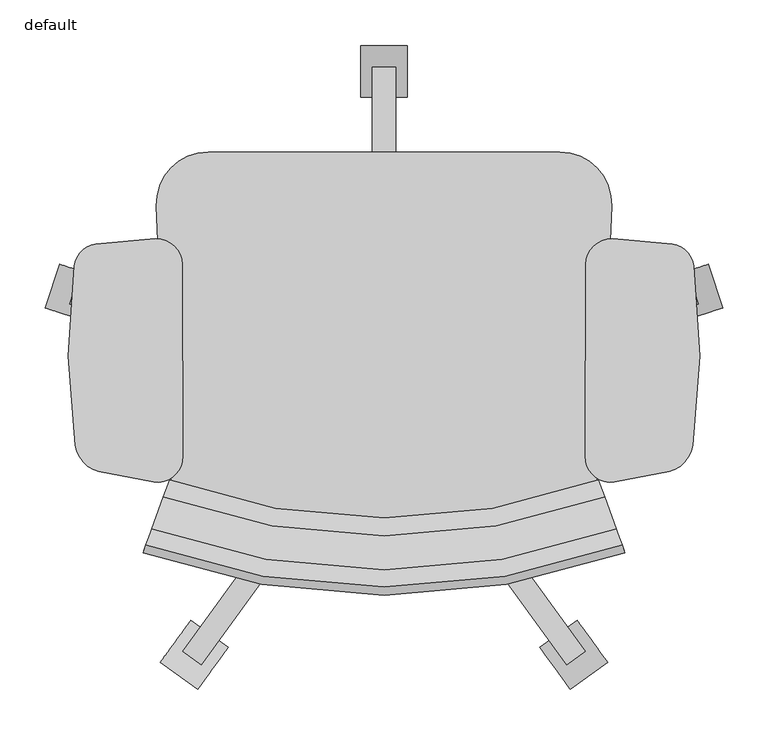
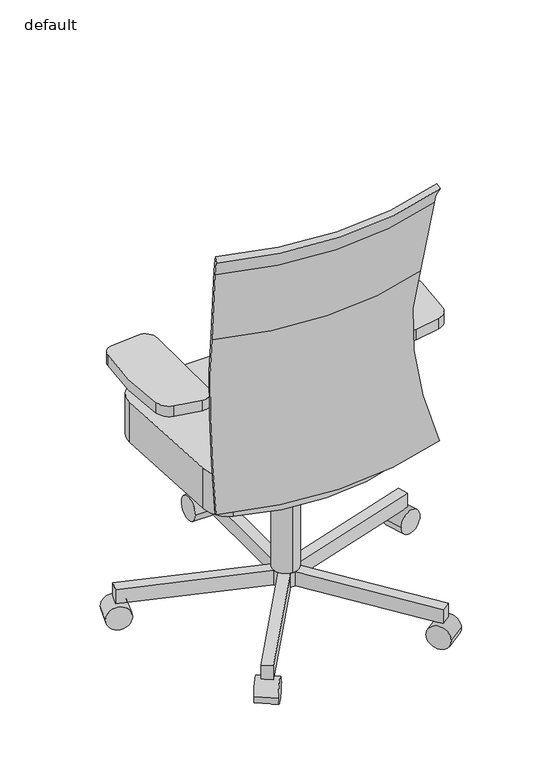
"""IFC4 building model written with IfcOpenShell, lengths in millimetres: furniture geometry, Fu_кресло офисное_LEG : default."""

from ifc_helpers import new_model, si_unit, point, frame, frame_2d, origin, place, context, project, spatial, polyline, circle_curve, ellipse_curve, trimmed, segment, composite_curve, outline, extrude, source, transform, mapped, element, save
from ifc_brep_helpers import plane_surface, revolved_surface, advanced_brep


def default_57711184(model_context):
    return source(origin(), model_context, "Body", "SolidModel", [
        extrude(outline(composite_curve([segment(trimmed(circle_curve(frame_2d((0.0, 28.575)), 28.575), [point((28.5750001, 28.575))], [point((-28.5749999, 28.575))], False, "CARTESIAN"), True, "CONTINUOUS"), segment(trimmed(circle_curve(frame_2d((0.0, 28.575)), 28.575), [point((-28.5749999, 28.575))], [point((28.5750001, 28.575))], False, "CARTESIAN"), True, "CONTINUOUS")], self_intersect=False)), frame((-231.7447289, -88.7968238, 57.15), z_axis=(0.3090169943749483, 0.9510565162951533, 0.0), x_axis=(0.9510565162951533, -0.3090169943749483, 0.0)), (0.0, 0.0, 1.0), 50.8),
        extrude(outline(composite_curve([segment(trimmed(circle_curve(frame_2d((0.0, 28.575)), 28.575), [point((28.575, 28.575))], [point((-28.575, 28.575))], False, "CARTESIAN"), True, "CONTINUOUS"), segment(trimmed(circle_curve(frame_2d((0.0, 28.575)), 28.575), [point((-28.575, 28.575))], [point((28.575, 28.575))], False, "CARTESIAN"), True, "CONTINUOUS")], self_intersect=False)), frame((-74.1674041, -477.1426201, 57.15), z_axis=(-0.8090169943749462, 0.5877852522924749, 0.0), x_axis=(0.5877852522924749, 0.8090169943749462, 0.0)), (0.0, 0.0, 1.0), 50.8),
        extrude(outline(composite_curve([segment(trimmed(circle_curve(frame_2d((0.0, 28.575)), 28.575), [point((-28.575, 28.575))], [point((28.575, 28.575))], False, "CARTESIAN"), True, "CONTINUOUS"), segment(trimmed(circle_curve(frame_2d((0.0, 28.575)), 28.575), [point((28.575, 28.575))], [point((-28.575, 28.575))], False, "CARTESIAN"), True, "CONTINUOUS")], self_intersect=False)), frame((302.7674041, -477.1426201, 57.15), z_axis=(0.8090169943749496, 0.5877852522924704, 0.0), x_axis=(0.5877852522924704, -0.8090169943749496, 0.0)), (0.0, 0.0, 1.0), 50.8),
        extrude(outline(composite_curve([segment(trimmed(circle_curve(frame_2d((0.0, 28.575)), 28.575), [point((-28.5750001, 28.575))], [point((28.5749999, 28.575))], False, "CARTESIAN"), True, "CONTINUOUS"), segment(trimmed(circle_curve(frame_2d((0.0, 28.575)), 28.575), [point((28.5749999, 28.575))], [point((-28.5750001, 28.575))], False, "CARTESIAN"), True, "CONTINUOUS")], self_intersect=False)), frame((460.3447289, -88.7968238, 57.15), z_axis=(-0.30901699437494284, 0.9510565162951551, 0.0), x_axis=(0.9510565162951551, 0.30901699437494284, 0.0)), (0.0, 0.0, 1.0), 50.8),
        extrude(outline(composite_curve([segment(trimmed(circle_curve(frame_2d((181.0735685, 28.575)), 28.575), [point((152.4985685, 28.575))], [point((209.6485685, 28.575))], False, "CARTESIAN"), True, "CONTINUOUS"), segment(trimmed(circle_curve(frame_2d((181.0735685, 28.575)), 28.575), [point((209.6485685, 28.575))], [point((152.4985685, 28.575))], False, "CARTESIAN"), True, "CONTINUOUS")], self_intersect=False)), frame((88.9, 0.0, 0.0), z_axis=(1.0, 0.0, 0.0), x_axis=(0.0, 1.0, 0.0)), (0.0, 0.0, 1.0), 50.8),
        extrude(outline(composite_curve([segment(trimmed(circle_curve(frame_2d((-135.8616483, -243.6441658)), 28.575), [point((-107.2868789, -243.7589737))], [point((-139.3311074, -272.0077601))], False, "CARTESIAN"), True, "CONTINUOUS"), segment(trimmed(circle_curve(frame_2d((-83.8527439, 181.5401137)), 456.9283561), [point((-139.3311074, -272.0077601))], [point((-200.073987, -260.360492))], False, "CARTESIAN"), True, "CONTINUOUS"), segment(trimmed(circle_curve(frame_2d((-191.1906974, -226.5841276)), 34.925), [point((-200.073987, -260.360492))], [point((-225.720055, -231.8261773))], False, "CARTESIAN"), True, "CONTINUOUS"), segment(trimmed(circle_curve(frame_2d((461.3738842, -127.5155027)), 694.9667604), [point((-225.720055, -231.8261773))], [point((-227.2377763, -33.7456825))], False, "CARTESIAN"), True, "CONTINUOUS"), segment(trimmed(circle_curve(frame_2d((-198.9240794, -37.6012232)), 28.575), [point((-227.2377763, -33.7456825))], [point((-203.2448485, -9.3547795))], False, "CARTESIAN"), True, "CONTINUOUS"), segment(trimmed(circle_curve(frame_2d((-125.9404962, -514.7215236)), 511.2450576), [point((-203.2448485, -9.3547795))], [point((-137.3924488, -3.6047447))], False, "CARTESIAN"), True, "CONTINUOUS"), segment(trimmed(circle_curve(frame_2d((-136.7523652, -32.1725748)), 28.575), [point((-137.3924488, -3.6047447))], [point((-108.1795769, -31.8170618))], False, "CARTESIAN"), True, "CONTINUOUS"), segment(trimmed(circle_curve(frame_2d((-12984.0081879, -192.0228026)), 12876.8252415), [point((-108.1795769, -31.8170618))], [point((-107.2868789, -243.7589737))], False, "CARTESIAN"), True, "CONTINUOUS")], self_intersect=False)), frame((0.0, 0.0, 627.9602843), z_axis=(0.0, 0.0, 1.0), x_axis=(1.0, 0.0, 0.0)), (0.0, 0.0, 1.0), 26.0897157),
        extrude(outline(composite_curve([segment(trimmed(circle_curve(frame_2d((365.3523652, -32.1725748)), 28.575), [point((336.7795769, -31.8170618))], [point((365.9924488, -3.6047447))], False, "CARTESIAN"), True, "CONTINUOUS"), segment(trimmed(circle_curve(frame_2d((354.5404962, -514.7215236)), 511.2450576), [point((365.9924488, -3.6047447))], [point((431.8448485, -9.3547795))], False, "CARTESIAN"), True, "CONTINUOUS"), segment(trimmed(circle_curve(frame_2d((427.5240794, -37.6012232)), 28.575), [point((431.8448485, -9.3547795))], [point((455.8377763, -33.7456825))], False, "CARTESIAN"), True, "CONTINUOUS"), segment(trimmed(circle_curve(frame_2d((-232.7738842, -127.5155027)), 694.9667604), [point((455.8377763, -33.7456825))], [point((454.320055, -231.8261773))], False, "CARTESIAN"), True, "CONTINUOUS"), segment(trimmed(circle_curve(frame_2d((419.7906974, -226.5841276)), 34.925), [point((454.320055, -231.8261773))], [point((428.673987, -260.360492))], False, "CARTESIAN"), True, "CONTINUOUS"), segment(trimmed(circle_curve(frame_2d((312.4527439, 181.5401137)), 456.9283561), [point((428.673987, -260.360492))], [point((367.9311074, -272.0077601))], False, "CARTESIAN"), True, "CONTINUOUS"), segment(trimmed(circle_curve(frame_2d((364.4616483, -243.6441658)), 28.575), [point((367.9311074, -272.0077601))], [point((335.8868789, -243.7589737))], False, "CARTESIAN"), True, "CONTINUOUS"), segment(trimmed(circle_curve(frame_2d((13212.6081878, -192.0228026)), 12876.8252414), [point((335.8868789, -243.7589737))], [point((336.7795769, -31.8170618))], False, "CARTESIAN"), True, "CONTINUOUS")], self_intersect=False)), frame((0.0, 0.0, 627.9602843), z_axis=(0.0, 0.0, 1.0), x_axis=(1.0, 0.0, 0.0)), (0.0, 0.0, 1.0), 26.0897157),
        extrude(outline(polyline([(127.0, -147.1679519), (136.3949445, -153.9937786), (452.9694855, -51.1324749), (460.8185172, -75.2893104), (144.2439761, -178.1506141), (140.6554267, -189.1950338), (336.309253, -458.489423), (315.7602213, -473.4191684), (120.106395, -204.1247792), (108.493605, -204.1247792), (-87.1602213, -473.4191684), (-107.709253, -458.489423), (87.9445733, -189.1950338), (84.3560239, -178.1506141), (-232.2185172, -75.2893104), (-224.3694855, -51.1324749), (92.2050555, -153.9937786), (101.6, -147.1679519), (101.6, 185.6982191), (127.0, 185.6982191), (127.0, -147.1679519)])), frame((0.0, 0.0, 56.9294454), z_axis=(0.0, 0.0, 1.0), x_axis=(1.0, 0.0, 0.0)), (0.0, 0.0, 1.0), 35.1455546),
        extrude(outline(composite_curve([segment(trimmed(circle_curve(frame_2d((114.3, -174.5264315)), 30.1625), [point((114.3, -144.3639315))], [point((114.3, -204.6889315))], False, "CARTESIAN"), True, "CONTINUOUS"), segment(trimmed(circle_curve(frame_2d((114.3, -174.5264315)), 30.1625), [point((114.3, -204.6889315))], [point((114.3, -144.3639315))], False, "CARTESIAN"), True, "CONTINUOUS")], self_intersect=False)), frame((0.0, 0.0, 92.075), z_axis=(0.0, 0.0, 1.0), x_axis=(1.0, 0.0, 0.0)), (0.0, 0.0, 1.0), 271.4758732),
        extrude(outline(composite_curve([segment(trimmed(circle_curve(frame_2d((307.9581747, 35.0238495)), 57.15), [point((307.9581747, 92.1738495))], [point((365.0562745, 32.5887929))], False, "CARTESIAN"), True, "CONTINUOUS"), segment(polyline([(365.0562745, 32.5887929), (353.0804072, -248.2257408)]), True, "CONTINUOUS"), segment(trimmed(circle_curve(frame_2d((289.6380741, -245.5201224)), 63.5), [point((353.0804072, -248.2257408))], [point((313.3324084, -304.4338604))], False, "CARTESIAN"), True, "CONTINUOUS"), segment(trimmed(circle_curve(frame_2d((114.3, 190.4415385)), 533.4), [point((313.3324084, -304.4338604))], [point((-84.7324084, -304.4338604))], False, "CARTESIAN"), True, "CONTINUOUS"), segment(trimmed(circle_curve(frame_2d((-61.0380741, -245.5201224)), 63.5), [point((-84.7324084, -304.4338604))], [point((-124.4804072, -248.2257408))], False, "CARTESIAN"), True, "CONTINUOUS"), segment(polyline([(-124.4804072, -248.2257408), (-136.4562745, 32.5887929)]), True, "CONTINUOUS"), segment(trimmed(circle_curve(frame_2d((-79.3581747, 35.0238495)), 57.15), [point((-136.4562745, 32.5887929))], [point((-79.3581747, 92.1738495))], False, "CARTESIAN"), True, "CONTINUOUS"), segment(polyline([(-79.3581747, 92.1738495), (307.9581747, 92.1738495)]), True, "CONTINUOUS")], self_intersect=False)), frame((0.0, 0.0, 363.5508732), z_axis=(0.0, 0.0, 1.0), x_axis=(1.0, 0.0, 0.0)), (0.0, 0.0, 1.0), 100.3786029),
        advanced_brep(
        [(-150.3862901, -347.7125744, 416.8439307), (-132.9086282, -299.6930932, 819.9539996), (-145.9516701, -335.5285561, 1009.3169282), (-151.1706881, -349.8676903, 1049.2727798), (-148.0622144, -341.3272291, 1058.3613489), (-141.6342752, -323.6666111, 1010.7113315), (-128.7431819, -288.2486235, 823.5544399), (-146.5571681, -337.1921483, 410.8204529), (378.9936167, -347.7125744, 416.8439307), (375.1644948, -337.1921483, 410.8204529), (357.3505086, -288.2486235, 823.5544399), (370.2416018, -323.6666111, 1010.7113315), (376.6695411, -341.3272291, 1058.3613489), (379.7780148, -349.8676903, 1049.2727798), (374.5589968, -335.5285561, 1009.3169282), (361.5159549, -299.6930932, 819.9539996)],
        [
            (0, 1, circle_curve(frame((-298.7334456, -755.2930344, 676.6218554), z_axis=(0.9396926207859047, -0.34202014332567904, 0.0), x_axis=(0.34202014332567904, 0.9396926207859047, 0.0)), 505.58212)),
            (1, 2, circle_curve(frame((224.6470845, 682.6831538, 1129.0104353), z_axis=(-0.9396926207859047, 0.34202014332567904, 0.0), x_axis=(0.34202014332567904, 0.9396926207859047, 0.0)), 1090.1490993)),
            (2, 3, circle_curve(frame((-174.7954627, -414.7762249, 1000.001153), z_axis=(0.9396926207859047, -0.34202014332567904, 0.0), x_axis=(0.34202014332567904, 0.9396926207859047, 0.0)), 84.8465736)),
            (3, 4),
            (4, 5, circle_curve(frame((-174.7954627, -414.7762249, 1000.001153), z_axis=(-0.9396926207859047, 0.34202014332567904, 0.0), x_axis=(0.34202014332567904, 0.9396926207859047, 0.0)), 97.5465736)),
            (5, 6, circle_curve(frame((224.6470845, 682.6831538, 1129.0104353), z_axis=(0.9396926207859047, -0.34202014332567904, 0.0), x_axis=(0.34202014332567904, 0.9396926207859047, 0.0)), 1077.4490993)),
            (6, 7, circle_curve(frame((-298.7334456, -755.2930344, 676.6218554), z_axis=(-0.9396926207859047, 0.34202014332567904, 0.0), x_axis=(0.34202014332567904, 0.9396926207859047, 0.0)), 518.28212)),
            (7, 0),
            (8, 9),
            (9, 10, circle_curve(frame((527.3407723, -755.2930344, 676.6218554), z_axis=(0.9396926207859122, 0.34202014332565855, 0.0), x_axis=(-0.34202014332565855, 0.9396926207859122, 0.0)), 518.28212)),
            (10, 11, circle_curve(frame((3.9602422, 682.6831538, 1129.0104353), z_axis=(-0.9396926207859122, -0.34202014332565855, 0.0), x_axis=(-0.34202014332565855, 0.9396926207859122, 0.0)), 1077.4490993)),
            (11, 12, circle_curve(frame((403.4027893, -414.7762249, 1000.001153), z_axis=(0.9396926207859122, 0.34202014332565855, 0.0), x_axis=(-0.34202014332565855, 0.9396926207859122, 0.0)), 97.5465736)),
            (12, 13),
            (13, 14, circle_curve(frame((403.4027893, -414.7762249, 1000.001153), z_axis=(-0.9396926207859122, -0.34202014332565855, 0.0), x_axis=(-0.34202014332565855, 0.9396926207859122, 0.0)), 84.8465736)),
            (14, 15, circle_curve(frame((3.9602422, 682.6831538, 1129.0104353), z_axis=(0.9396926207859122, 0.34202014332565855, 0.0), x_axis=(-0.34202014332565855, 0.9396926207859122, 0.0)), 1090.1490993)),
            (15, 8, circle_curve(frame((527.3407723, -755.2930344, 676.6218554), z_axis=(-0.9396926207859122, -0.34202014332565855, 0.0), x_axis=(-0.34202014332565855, 0.9396926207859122, 0.0)), 505.58212)),
            (8, 0, circle_curve(frame((114.3036633, 379.5170957, 416.8439307), z_axis=(0.0, 0.0, -1.0), x_axis=(-0.34202014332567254, -0.939692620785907, 0.0)), 773.9016504)),
            (7, 9, circle_curve(frame((114.3036633, 379.5170957, 410.8204529), z_axis=(0.0, 0.0, 1.0), x_axis=(-0.34202014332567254, -0.939692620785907, 0.0)), 762.7060469)),
            (6, 10, circle_curve(frame((114.3036633, 379.5170957, 823.5544399), z_axis=(0.0, 0.0, 1.0), x_axis=(-0.34202014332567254, -0.939692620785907, 0.0)), 710.6214356)),
            (5, 11, circle_curve(frame((114.3036633, 379.5170957, 1010.7113315), z_axis=(0.0, 0.0, 1.0), x_axis=(-0.34202014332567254, -0.939692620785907, 0.0)), 748.3124708)),
            (4, 12, circle_curve(frame((114.3036633, 379.5170957, 1058.3613489), z_axis=(0.0, 0.0, 1.0), x_axis=(-0.34202014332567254, -0.939692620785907, 0.0)), 767.1065079)),
            (3, 13, circle_curve(frame((114.3036633, 379.5170957, 1049.2727798), z_axis=(0.0, 0.0, 1.0), x_axis=(-0.34202014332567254, -0.939692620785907, 0.0)), 776.1950769)),
            (2, 14, circle_curve(frame((114.3036633, 379.5170957, 1009.3169282), z_axis=(0.0, 0.0, 1.0), x_axis=(-0.34202014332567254, -0.939692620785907, 0.0)), 760.935689)),
            (1, 15, circle_curve(frame((114.3036633, 379.5170957, 819.9539996), z_axis=(0.0, 0.0, 1.0), x_axis=(-0.34202014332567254, -0.939692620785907, 0.0)), 722.8003859)),
        ],
        [
            plane_surface(frame((-121.5076811, -268.3692483, 666.0100314), z_axis=(-0.939692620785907, 0.34202014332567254, 0.0), x_axis=(0.0, 0.0, 1.0))),
            plane_surface(frame((350.1150077, -268.3692483, 666.0100314), z_axis=(0.9396926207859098, 0.342020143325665, 0.0), x_axis=(0.0, 0.0, 1.0))),
            revolved_surface(polyline([(-150.3862901, -347.7125744, 416.8439307), (-146.5571681, -337.1921483, 410.8204529)]), (114.3036633, 379.5170957, 666.0100314), (0.0, 0.0, -1.0)),
            revolved_surface(trimmed(ellipse_curve(frame((-298.7334456, -755.2930344, 676.6218554), z_axis=(0.9396926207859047, -0.34202014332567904, 0.0), x_axis=(0.34202014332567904, 0.9396926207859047, 0.0)), 518.28212, 518.28212), [point((-146.5571681, -337.1921483, 410.8204529))], [point((-128.7431819, -288.2486235, 823.5544399))], True, "CARTESIAN"), (114.3036633, 379.5170957, 666.0100314), (0.0, 0.0, -1.0)),
            revolved_surface(trimmed(ellipse_curve(frame((224.6470845, 682.6831538, 1129.0104353), z_axis=(-0.9396926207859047, 0.34202014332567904, 0.0), x_axis=(0.34202014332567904, 0.9396926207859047, 0.0)), 1077.4490993, 1077.4490993), [point((-128.7431819, -288.2486235, 823.5544399))], [point((-141.6342752, -323.6666111, 1010.7113315))], True, "CARTESIAN"), (114.3036633, 379.5170957, 666.0100314), (0.0, 0.0, -1.0)),
            revolved_surface(trimmed(ellipse_curve(frame((-174.7954627, -414.7762249, 1000.001153), z_axis=(0.9396926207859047, -0.34202014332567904, 0.0), x_axis=(0.34202014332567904, 0.9396926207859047, 0.0)), 97.5465736, 97.5465736), [point((-141.6342752, -323.6666111, 1010.7113315))], [point((-148.0622144, -341.3272291, 1058.3613489))], True, "CARTESIAN"), (114.3036633, 379.5170957, 666.0100314), (0.0, 0.0, -1.0)),
            revolved_surface(polyline([(-148.0622144, -341.3272291, 1058.3613489), (-151.1706881, -349.8676903, 1049.2727798)]), (114.3036633, 379.5170957, 666.0100314), (0.0, 0.0, -1.0)),
            revolved_surface(trimmed(ellipse_curve(frame((-174.7954627, -414.7762249, 1000.001153), z_axis=(-0.9396926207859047, 0.34202014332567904, 0.0), x_axis=(0.34202014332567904, 0.9396926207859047, 0.0)), 84.8465736, 84.8465736), [point((-151.1706881, -349.8676903, 1049.2727798))], [point((-145.9516701, -335.5285561, 1009.3169282))], True, "CARTESIAN"), (114.3036633, 379.5170957, 666.0100314), (0.0, 0.0, -1.0)),
            revolved_surface(trimmed(ellipse_curve(frame((224.6470845, 682.6831538, 1129.0104353), z_axis=(0.9396926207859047, -0.34202014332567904, 0.0), x_axis=(0.34202014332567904, 0.9396926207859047, 0.0)), 1090.1490993, 1090.1490993), [point((-145.9516701, -335.5285561, 1009.3169282))], [point((-132.9086282, -299.6930932, 819.9539996))], True, "CARTESIAN"), (114.3036633, 379.5170957, 666.0100314), (0.0, 0.0, -1.0)),
            revolved_surface(trimmed(ellipse_curve(frame((-298.7334456, -755.2930344, 676.6218554), z_axis=(-0.9396926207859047, 0.34202014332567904, 0.0), x_axis=(0.34202014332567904, 0.9396926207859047, 0.0)), 505.58212, 505.58212), [point((-132.9086282, -299.6930932, 819.9539996))], [point((-150.3862901, -347.7125744, 416.8439307))], True, "CARTESIAN"), (114.3036633, 379.5170957, 666.0100314), (0.0, 0.0, -1.0)),
        ],
        [
            (0, [[1, 2, 3, 4, 5, 6, 7, 8]]),
            (1, [[9, 10, 11, 12, 13, 14, 15, 16]]),
            (2, [[-9, 17, -8, 18]]),
            (3, [[-10, -18, -7, 19]]),
            (4, [[-11, -19, -6, 20]]),
            (5, [[-12, -20, -5, 21]]),
            (6, [[-13, -21, -4, 22]]),
            (7, [[-14, -22, -3, 23]]),
            (8, [[-15, -23, -2, 24]]),
            (9, [[-16, -24, -1, -17]]),
        ],
    ),
    ])


if __name__ == "__main__":
    model = new_model("IFC4")
    model_context = context("Model", 3, world=origin())
    ifc_project = project(units=[si_unit("LENGTHUNIT", "METRE", prefix="MILLI")], contexts=[model_context])
    site = spatial("IfcSite", under=ifc_project)
    building = spatial("IfcBuilding", under=site)
    placement = place(None, origin())
    default_shape = default_57711184(model_context)
    element("IfcFurniture", 1, ObjectType="Fu_кресло офисное_LEG : default", at=placement, inside=building, context=model_context, shape_type="MappedRepresentation", body=[
        mapped(default_shape, transform((0.0, 0.0, 0.0), x_axis=(1.0, 0.0, 0.0), y_axis=(0.0, 1.0, 0.0), z_axis=(0.0, 0.0, 1.0))),
    ])
    save(model, "model.ifc")
